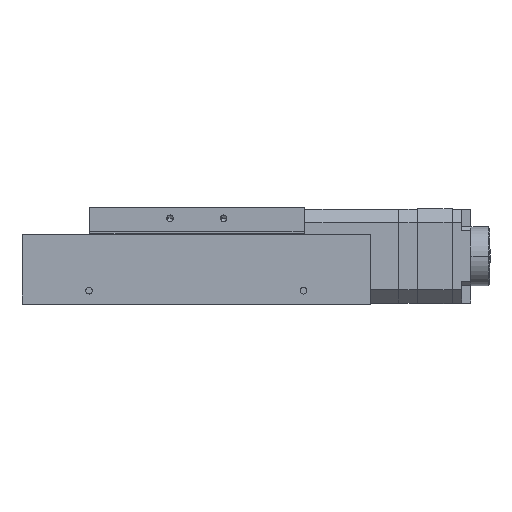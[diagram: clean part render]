
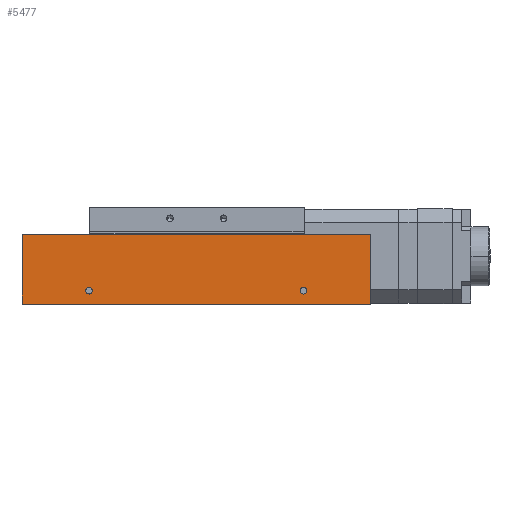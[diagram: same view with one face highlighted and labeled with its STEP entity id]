
A CAD part, top view. The second image highlights one B-rep face of the part: STEP entity #5477.
In plain terms, the highlighted planar face has unit normal (0, 0, 1).
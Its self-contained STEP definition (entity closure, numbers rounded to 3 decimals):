
#228 = DIRECTION ( 'NONE',  ( 0., 0., 1. ) ) ;
#757 = EDGE_LOOP ( 'NONE', ( #11383, #9704 ) ) ;
#1026 = PLANE ( 'NONE',  #3884 ) ;
#1029 = VECTOR ( 'NONE', #11927, 1000. ) ;
#1352 = CIRCLE ( 'NONE', #2547, 1.25 ) ;
#1829 = VERTEX_POINT ( 'NONE', #12822 ) ;
#1913 = EDGE_CURVE ( 'NONE', #3633, #3627, #1352, .T. ) ;
#2006 = DIRECTION ( 'NONE',  ( -1., 0., 0. ) ) ;
#2377 = VECTOR ( 'NONE', #12587, 1000. ) ;
#2484 = ORIENTED_EDGE ( 'NONE', *, *, #12734, .T. ) ;
#2500 = VERTEX_POINT ( 'NONE', #14585 ) ;
#2547 = AXIS2_PLACEMENT_3D ( 'NONE', #5314, #5678, #6587 ) ;
#3255 = ORIENTED_EDGE ( 'NONE', *, *, #6195, .F. ) ;
#3347 = FACE_BOUND ( 'NONE', #14731, .T. ) ;
#3501 = LINE ( 'NONE', #12807, #2377 ) ;
#3627 = VERTEX_POINT ( 'NONE', #10225 ) ;
#3633 = VERTEX_POINT ( 'NONE', #6910 ) ;
#3884 = AXIS2_PLACEMENT_3D ( 'NONE', #13556, #13717, #2006 ) ;
#4134 = DIRECTION ( 'NONE',  ( 1., 0., 0. ) ) ;
#4367 = CARTESIAN_POINT ( 'NONE',  ( 40., 5., 34.5 ) ) ;
#4574 = EDGE_CURVE ( 'NONE', #2500, #5111, #3501, .T. ) ;
#4804 = DIRECTION ( 'NONE',  ( 1., 0., 0. ) ) ;
#5088 = VECTOR ( 'NONE', #9908, 1000. ) ;
#5111 = VERTEX_POINT ( 'NONE', #14279 ) ;
#5171 = EDGE_CURVE ( 'NONE', #5465, #11217, #6029, .T. ) ;
#5190 = CARTESIAN_POINT ( 'NONE',  ( 40., 5., 34.5 ) ) ;
#5314 = CARTESIAN_POINT ( 'NONE',  ( -40., 5., 34.5 ) ) ;
#5465 = VERTEX_POINT ( 'NONE', #11934 ) ;
#5477 = ADVANCED_FACE ( 'NONE', ( #3347, #6579, #14846 ), #1026, .F. ) ;
#5678 = DIRECTION ( 'NONE',  ( 0., 0., 1. ) ) ;
#6029 = CIRCLE ( 'NONE', #8428, 1.25 ) ;
#6176 = EDGE_LOOP ( 'NONE', ( #2484, #3255, #13888, #7687 ) ) ;
#6195 = EDGE_CURVE ( 'NONE', #1829, #8042, #13040, .T. ) ;
#6361 = LINE ( 'NONE', #8711, #5088 ) ;
#6579 = FACE_BOUND ( 'NONE', #757, .T. ) ;
#6587 = DIRECTION ( 'NONE',  ( 1., 0., 0. ) ) ;
#6910 = CARTESIAN_POINT ( 'NONE',  ( -41.25, 5., 34.5 ) ) ;
#6924 = CARTESIAN_POINT ( 'NONE',  ( 38.75, 5., 34.5 ) ) ;
#7007 = CIRCLE ( 'NONE', #7249, 1.25 ) ;
#7249 = AXIS2_PLACEMENT_3D ( 'NONE', #4367, #12243, #11123 ) ;
#7477 = CARTESIAN_POINT ( 'NONE',  ( -65., 0., 34.5 ) ) ;
#7687 = ORIENTED_EDGE ( 'NONE', *, *, #4574, .T. ) ;
#7730 = DIRECTION ( 'NONE',  ( 0., 0., 1. ) ) ;
#8042 = VERTEX_POINT ( 'NONE', #11124 ) ;
#8428 = AXIS2_PLACEMENT_3D ( 'NONE', #5190, #7730, #4134 ) ;
#8539 = CARTESIAN_POINT ( 'NONE',  ( 65., 26., 34.5 ) ) ;
#8711 = CARTESIAN_POINT ( 'NONE',  ( -65., 26., 34.5 ) ) ;
#9704 = ORIENTED_EDGE ( 'NONE', *, *, #11389, .F. ) ;
#9826 = DIRECTION ( 'NONE',  ( 1., 0., 0. ) ) ;
#9908 = DIRECTION ( 'NONE',  ( 1., 0., 0. ) ) ;
#10225 = CARTESIAN_POINT ( 'NONE',  ( -38.75, 5., 34.5 ) ) ;
#11124 = CARTESIAN_POINT ( 'NONE',  ( 65., 0., 34.5 ) ) ;
#11123 = DIRECTION ( 'NONE',  ( 1., 0., 0. ) ) ;
#11217 = VERTEX_POINT ( 'NONE', #6924 ) ;
#11383 = ORIENTED_EDGE ( 'NONE', *, *, #5171, .F. ) ;
#11389 = EDGE_CURVE ( 'NONE', #11217, #5465, #7007, .T. ) ;
#11711 = CARTESIAN_POINT ( 'NONE',  ( -40., 5., 34.5 ) ) ;
#11927 = DIRECTION ( 'NONE',  ( 0., -1., 0. ) ) ;
#11934 = CARTESIAN_POINT ( 'NONE',  ( 41.25, 5., 34.5 ) ) ;
#12243 = DIRECTION ( 'NONE',  ( 0., 0., 1. ) ) ;
#12437 = ORIENTED_EDGE ( 'NONE', *, *, #1913, .F. ) ;
#12489 = AXIS2_PLACEMENT_3D ( 'NONE', #11711, #228, #4804 ) ;
#12587 = DIRECTION ( 'NONE',  ( 0., -1., 0. ) ) ;
#12734 = EDGE_CURVE ( 'NONE', #5111, #8042, #13190, .T. ) ;
#12807 = CARTESIAN_POINT ( 'NONE',  ( -65., 26., 34.5 ) ) ;
#12812 = VECTOR ( 'NONE', #9826, 1000. ) ;
#12822 = CARTESIAN_POINT ( 'NONE',  ( 65., 26., 34.5 ) ) ;
#13040 = LINE ( 'NONE', #8539, #1029 ) ;
#13190 = LINE ( 'NONE', #7477, #12812 ) ;
#13209 = CIRCLE ( 'NONE', #12489, 1.25 ) ;
#13556 = CARTESIAN_POINT ( 'NONE',  ( -65., 26., 34.5 ) ) ;
#13716 = ORIENTED_EDGE ( 'NONE', *, *, #14635, .F. ) ;
#13717 = DIRECTION ( 'NONE',  ( 0., 0., -1. ) ) ;
#13722 = EDGE_CURVE ( 'NONE', #2500, #1829, #6361, .T. ) ;
#13888 = ORIENTED_EDGE ( 'NONE', *, *, #13722, .F. ) ;
#14279 = CARTESIAN_POINT ( 'NONE',  ( -65., 0., 34.5 ) ) ;
#14585 = CARTESIAN_POINT ( 'NONE',  ( -65., 26., 34.5 ) ) ;
#14635 = EDGE_CURVE ( 'NONE', #3627, #3633, #13209, .T. ) ;
#14731 = EDGE_LOOP ( 'NONE', ( #13716, #12437 ) ) ;
#14846 = FACE_OUTER_BOUND ( 'NONE', #6176, .T. ) ;
